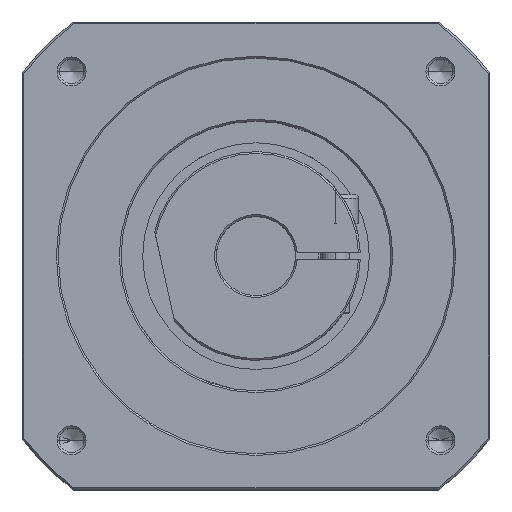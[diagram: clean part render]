
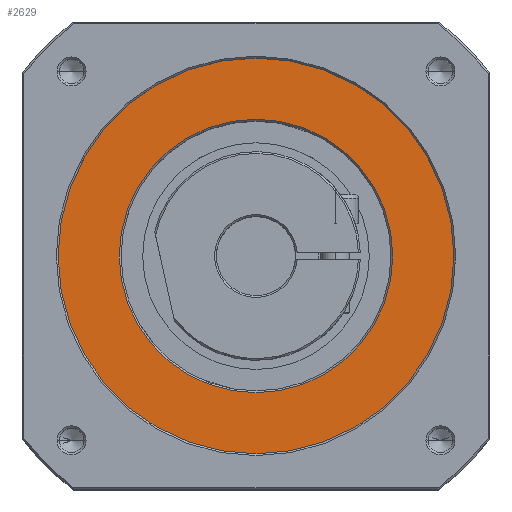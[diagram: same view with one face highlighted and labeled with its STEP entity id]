
A CAD part, top view. The second image highlights one B-rep face of the part: STEP entity #2629.
In plain terms, the highlighted planar face has unit normal (0, 0, 1).
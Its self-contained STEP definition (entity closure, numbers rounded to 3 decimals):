
#199 = CARTESIAN_POINT ( 'NONE',  ( 55., 0., 123.5 ) ) ;
#226 = CIRCLE ( 'NONE', #5408, 55. ) ;
#428 = AXIS2_PLACEMENT_3D ( 'NONE', #566, #4199, #1086 ) ;
#452 = DIRECTION ( 'NONE',  ( 0., 0., 1. ) ) ;
#510 = CIRCLE ( 'NONE', #428, 38. ) ;
#531 = DIRECTION ( 'NONE',  ( 0., 0., 1. ) ) ;
#566 = CARTESIAN_POINT ( 'NONE',  ( 0., 0., 123.5 ) ) ;
#871 = EDGE_LOOP ( 'NONE', ( #5305, #3974 ) ) ;
#1086 = DIRECTION ( 'NONE',  ( 1., 0., 0. ) ) ;
#1148 = EDGE_CURVE ( 'NONE', #6302, #2533, #4219, .T. ) ;
#1407 = DIRECTION ( 'NONE',  ( 0., 0., 1. ) ) ;
#1547 = DIRECTION ( 'NONE',  ( 1., 0., 0. ) ) ;
#1849 = CARTESIAN_POINT ( 'NONE',  ( -38., 0., 123.5 ) ) ;
#2073 = CARTESIAN_POINT ( 'NONE',  ( 0., 0., 123.5 ) ) ;
#2314 = FACE_BOUND ( 'NONE', #3181, .T. ) ;
#2439 = ORIENTED_EDGE ( 'NONE', *, *, #2835, .T. ) ;
#2471 = FACE_OUTER_BOUND ( 'NONE', #871, .T. ) ;
#2533 = VERTEX_POINT ( 'NONE', #4409 ) ;
#2629 = ADVANCED_FACE ( 'NONE', ( #2314, #2471 ), #2981, .T. ) ;
#2835 = EDGE_CURVE ( 'NONE', #2533, #6302, #510, .T. ) ;
#2981 = PLANE ( 'NONE',  #6283 ) ;
#3181 = EDGE_LOOP ( 'NONE', ( #2439, #6273 ) ) ;
#3565 = CARTESIAN_POINT ( 'NONE',  ( 0., 0., 123.5 ) ) ;
#3641 = CARTESIAN_POINT ( 'NONE',  ( 0., 0., 123.5 ) ) ;
#3974 = ORIENTED_EDGE ( 'NONE', *, *, #5897, .T. ) ;
#4083 = DIRECTION ( 'NONE',  ( 1., 0., 0. ) ) ;
#4168 = DIRECTION ( 'NONE',  ( 1., 0., 0. ) ) ;
#4199 = DIRECTION ( 'NONE',  ( 0., 0., -1. ) ) ;
#4219 = CIRCLE ( 'NONE', #4551, 38. ) ;
#4409 = CARTESIAN_POINT ( 'NONE',  ( 38., 0., 123.5 ) ) ;
#4543 = CARTESIAN_POINT ( 'NONE',  ( 0., 0., 123.5 ) ) ;
#4551 = AXIS2_PLACEMENT_3D ( 'NONE', #2073, #5187, #1547 ) ;
#5051 = DIRECTION ( 'NONE',  ( 1., 0., 0. ) ) ;
#5187 = DIRECTION ( 'NONE',  ( 0., 0., -1. ) ) ;
#5262 = VERTEX_POINT ( 'NONE', #6070 ) ;
#5305 = ORIENTED_EDGE ( 'NONE', *, *, #5377, .T. ) ;
#5377 = EDGE_CURVE ( 'NONE', #5562, #5262, #226, .T. ) ;
#5408 = AXIS2_PLACEMENT_3D ( 'NONE', #3641, #531, #4168 ) ;
#5562 = VERTEX_POINT ( 'NONE', #199 ) ;
#5897 = EDGE_CURVE ( 'NONE', #5262, #5562, #6359, .T. ) ;
#6070 = CARTESIAN_POINT ( 'NONE',  ( -55., 0., 123.5 ) ) ;
#6273 = ORIENTED_EDGE ( 'NONE', *, *, #1148, .T. ) ;
#6283 = AXIS2_PLACEMENT_3D ( 'NONE', #4543, #1407, #5051 ) ;
#6302 = VERTEX_POINT ( 'NONE', #1849 ) ;
#6359 = CIRCLE ( 'NONE', #6423, 55. ) ;
#6423 = AXIS2_PLACEMENT_3D ( 'NONE', #3565, #452, #4083 ) ;
